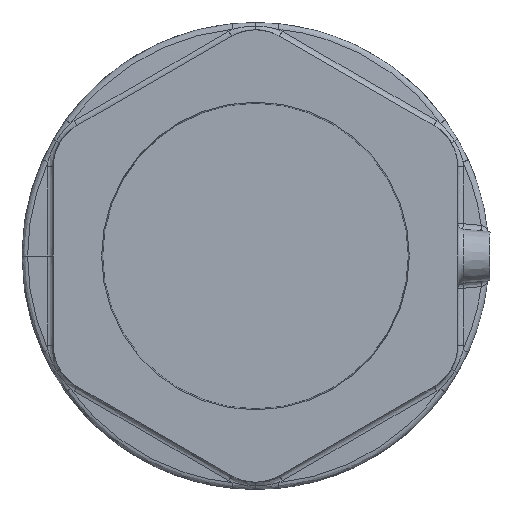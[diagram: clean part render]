
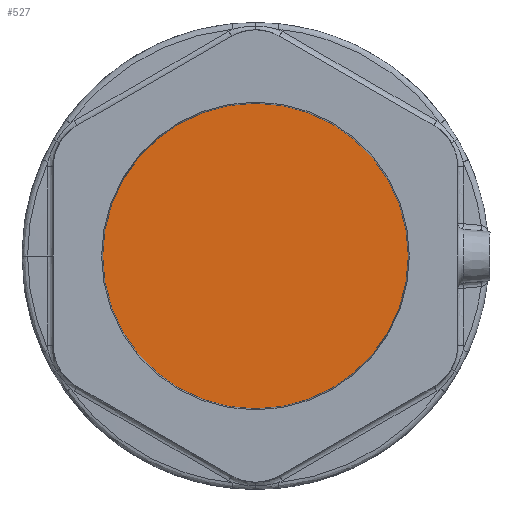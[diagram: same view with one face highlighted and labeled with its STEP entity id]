
A CAD part, front view. The second image highlights one B-rep face of the part: STEP entity #527.
In plain terms, the highlighted planar face has unit normal (0, -1, 0).
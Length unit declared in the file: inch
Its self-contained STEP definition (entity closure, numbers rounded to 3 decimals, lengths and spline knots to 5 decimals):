
#425 = AXIS2_PLACEMENT_3D ( 'NONE', #1903, #5040, #2362 ) ;
#527 = ADVANCED_FACE ( 'NONE', ( #5054 ), #1769, .T. ) ;
#617 = VERTEX_POINT ( 'NONE', #5541 ) ;
#1574 = ORIENTED_EDGE ( 'NONE', *, *, #3353, .T. ) ;
#1769 = PLANE ( 'NONE',  #5585 ) ;
#1903 = CARTESIAN_POINT ( 'NONE',  ( 0., -0.25, 0. ) ) ;
#1958 = DIRECTION ( 'NONE',  ( 0., -1., 0. ) ) ;
#2079 = VERTEX_POINT ( 'NONE', #5062 ) ;
#2230 = DIRECTION ( 'NONE',  ( 0., -1., 0. ) ) ;
#2330 = ORIENTED_EDGE ( 'NONE', *, *, #5340, .T. ) ;
#2362 = DIRECTION ( 'NONE',  ( 0., 0., -1. ) ) ;
#2996 = CIRCLE ( 'NONE', #3861, 1.61671 ) ;
#3183 = EDGE_LOOP ( 'NONE', ( #2330, #1574 ) ) ;
#3353 = EDGE_CURVE ( 'NONE', #617, #2079, #3695, .T. ) ;
#3695 = CIRCLE ( 'NONE', #425, 1.61671 ) ;
#3861 = AXIS2_PLACEMENT_3D ( 'NONE', #4630, #1958, #5094 ) ;
#4630 = CARTESIAN_POINT ( 'NONE',  ( 0., -0.25, 0. ) ) ;
#4900 = CARTESIAN_POINT ( 'NONE',  ( 1.61671, -0.25, 0. ) ) ;
#5040 = DIRECTION ( 'NONE',  ( 0., -1., 0. ) ) ;
#5054 = FACE_OUTER_BOUND ( 'NONE', #3183, .T. ) ;
#5062 = CARTESIAN_POINT ( 'NONE',  ( 0., -0.25, -1.61671 ) ) ;
#5094 = DIRECTION ( 'NONE',  ( 0., 0., -1. ) ) ;
#5340 = EDGE_CURVE ( 'NONE', #2079, #617, #2996, .T. ) ;
#5360 = DIRECTION ( 'NONE',  ( 0., 0., -1. ) ) ;
#5541 = CARTESIAN_POINT ( 'NONE',  ( 0., -0.25, 1.61671 ) ) ;
#5585 = AXIS2_PLACEMENT_3D ( 'NONE', #4900, #2230, #5360 ) ;
